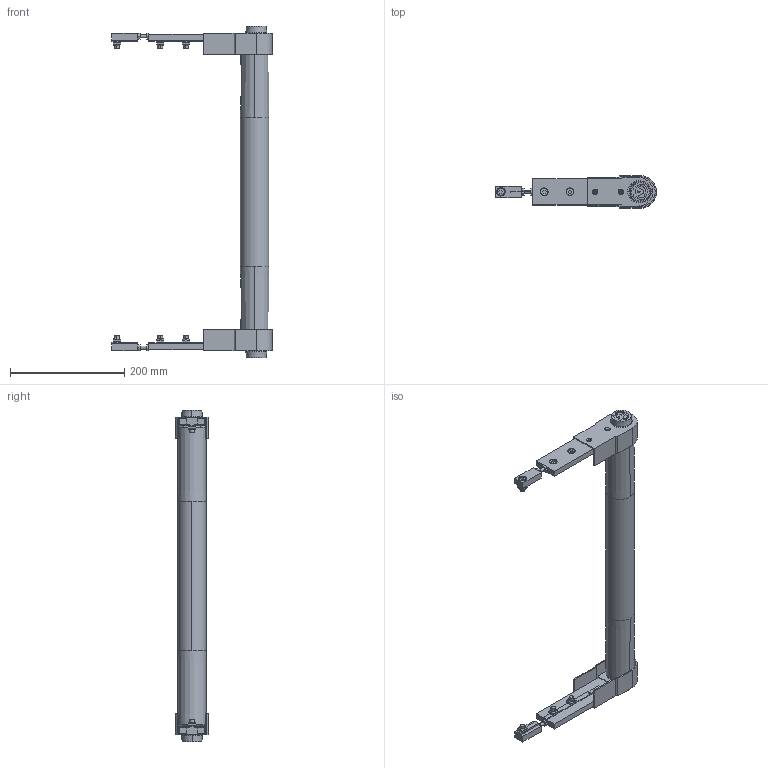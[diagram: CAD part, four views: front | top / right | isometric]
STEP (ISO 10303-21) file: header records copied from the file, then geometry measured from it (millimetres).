
FILE_DESCRIPTION (( 'STEP AP214' ), '1' );
FILE_NAME ('084.050.KIS.500.STEP', '2019-11-27T10:56:46', ( '' ), ( '' ), 'SwSTEP 2.0', 'SolidWorks 2018', '' );
FILE_SCHEMA (( 'AUTOMOTIVE_DESIGN' ));
Length unit declared in the file: millimetre
Products named in the file (10): 084.302.000 DADI ALUSIC 13x13_084.302.004; 084.301.000 VITI ALUSIC_084.301.003; 084.811.004; 084.802.017_084.802.017; 084.807.002_084.807.002; 084.815.120_Default<A macchina>; 084.810.001; 084.050.KIS.500; 084.802.008; 084.802.023_084.802.023
Assembly tree (25 placements, depth 2):
  084.050.KIS.500
    084.807.002_084.807.002  x2
    084.802.017_084.802.017  x2
    084.811.004  x2
    084.815.120_Default<A macchina>
    084.810.001  x2
    084.802.008  x2
    084.301.000 VITI ALUSIC_084.301.003  x6
    084.302.000 DADI ALUSIC 13x13_084.302.004  x6
    084.802.023_084.802.023  x2
Bounding box: 281 x 56 x 580 mm (x, y, z)
Volume: 692267.3 mm3; surface area: 432733.1 mm2
Topology: 31 solids, 33 shells, 824 faces, 2060 edges, 1340 vertices
Faces by surface type: plane 410, cylinder 234, torus 80, cone 76, bspline 16, sphere 8
Entity records: 12693 total; most frequent: CARTESIAN_POINT 2365, DIRECTION 2164, ORIENTED_EDGE 1952, EDGE_CURVE 976, AXIS2_PLACEMENT_3D 822, VERTEX_POINT 639, VECTOR 520, LINE 520
